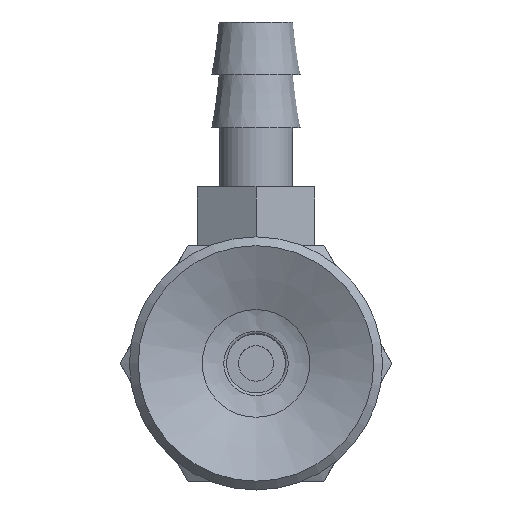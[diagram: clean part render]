
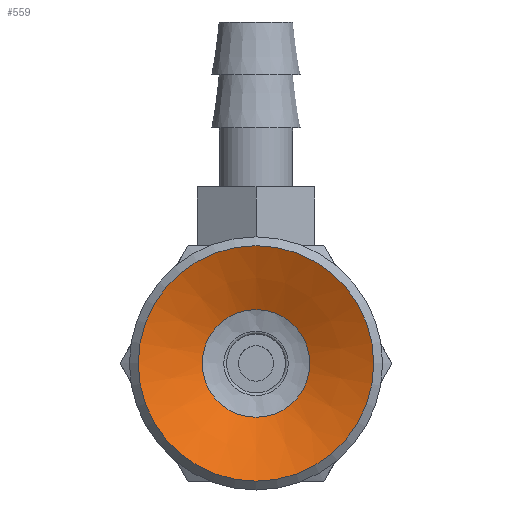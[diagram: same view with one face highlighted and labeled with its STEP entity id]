
A CAD part, front view. The second image highlights one B-rep face of the part: STEP entity #559.
In plain terms, the highlighted conical face has half-angle 65 degrees and reference radius 1.427 mm.
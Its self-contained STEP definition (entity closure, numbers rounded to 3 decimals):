
#559=ADVANCED_FACE('',(#838,#839),#840,.F.);
#838=FACE_BOUND('',#1156,.T.);
#839=FACE_OUTER_BOUND('',#1157,.T.);
#840=CONICAL_SURFACE('',#1158,1.427,1.134);
#1156=EDGE_LOOP('',(#1935));
#1157=EDGE_LOOP('',(#1936));
#1158=AXIS2_PLACEMENT_3D('',#1937,#1938,#1939);
#1935=ORIENTED_EDGE('',*,*,#2257,.T.);
#1936=ORIENTED_EDGE('',*,*,#2244,.T.);
#1937=CARTESIAN_POINT('',(0.0,7.096,0.));
#1938=DIRECTION('',(-0.0,-1.0,0.));
#1939=DIRECTION('',(0.0,0.,-1.0));
#2244=EDGE_CURVE('',#2580,#2580,#2581,.T.);
#2257=EDGE_CURVE('',#2606,#2606,#2607,.T.);
#2580=VERTEX_POINT('',#3328);
#2581=CIRCLE('',#3329,4.0);
#2606=VERTEX_POINT('',#3354);
#2607=CIRCLE('',#3355,1.828);
#3328=CARTESIAN_POINT('',(0.0,5.896,-4.0));
#3329=AXIS2_PLACEMENT_3D('',#3679,#3680,#3681);
#3354=CARTESIAN_POINT('',(0.0,6.909,-1.828));
#3355=AXIS2_PLACEMENT_3D('',#3718,#3719,#3720);
#3679=CARTESIAN_POINT('',(0.0,5.896,0.0));
#3680=DIRECTION('',(0.0,-1.0,0.));
#3681=DIRECTION('',(0.0,0.,-1.0));
#3718=CARTESIAN_POINT('',(0.0,6.909,0.0));
#3719=DIRECTION('',(0.0,1.0,0.));
#3720=DIRECTION('',(0.0,0.,-1.0));
